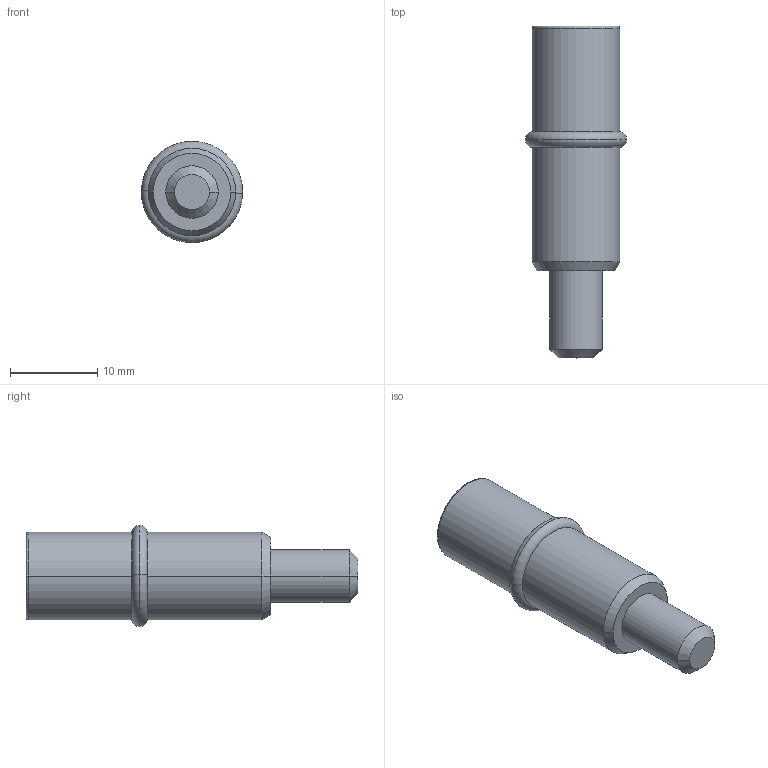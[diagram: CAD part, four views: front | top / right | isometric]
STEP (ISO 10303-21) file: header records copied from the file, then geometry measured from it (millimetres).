
FILE_DESCRIPTION (( 'STEP AP203' ), '1' );
FILE_NAME ('013.100.016.STEP', '2020-11-09T08:50:02', ( '' ), ( '' ), 'SwSTEP 2.0', 'SolidWorks 2018', '' );
FILE_SCHEMA (( 'CONFIG_CONTROL_DESIGN' ));
Length unit declared in the file: millimetre
Products named in the file (3): O-ring DIN 3771 - 8x1.8_O-ring DIN 3771 - 8x1.8; 013.100.016A; 013.100.016
Assembly tree (2 placements, depth 2):
  013.100.016
    013.100.016A
    O-ring DIN 3771 - 8x1.8_O-ring DIN 3771 - 8x1.8
Bounding box: 11.6 x 38 x 11.6 mm (x, y, z)
Volume: 2380.2 mm3; surface area: 1504 mm2
Topology: 2 solids, 2 shells, 30 faces, 62 edges, 38 vertices
Faces by surface type: plane 12, cylinder 8, torus 6, cone 4
Entity records: 1107 total; most frequent: DIRECTION 164, CARTESIAN_POINT 135, ORIENTED_EDGE 124, AXIS2_PLACEMENT_3D 67, EDGE_CURVE 62, VERTEX_POINT 38, EDGE_LOOP 34, CIRCLE 32
